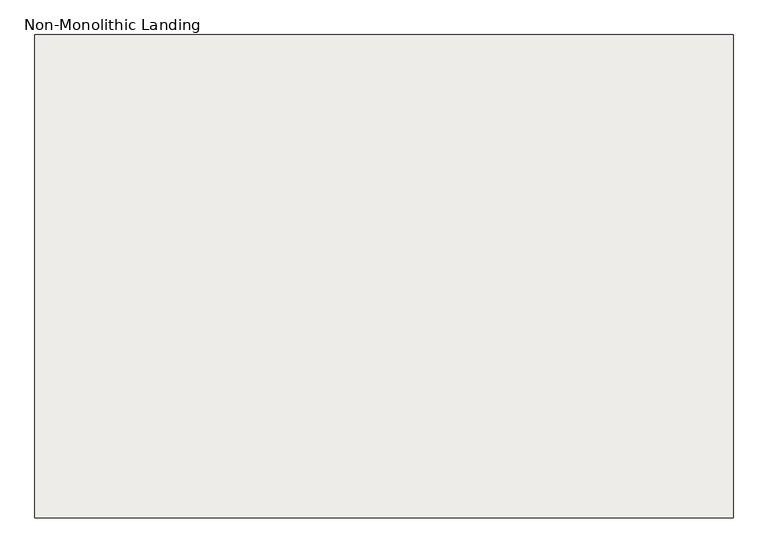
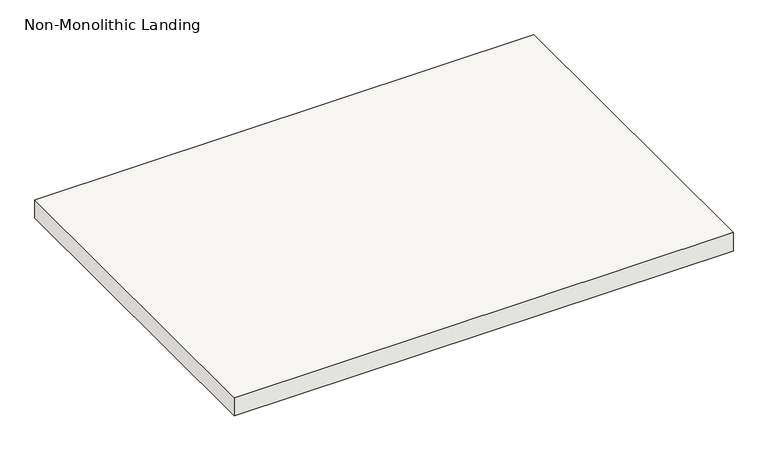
"""IFC4 building model written with IfcOpenShell, lengths in millimetres: slab geometry, Non-Monolithic Landing."""

from ifc_helpers import new_model, si_unit, frame, origin, place, context, project, spatial, polyline, outline, extrude, source, transform, mapped, element, save


def non_monolithic_landing_a06a94af(model_context):
    return source(origin(), model_context, "Body", "SweptSolid", [
        extrude(outline(polyline([(162982.2620703, -1515.4986114), (164303.0620703, -1515.4986114), (164303.0620703, -2429.8986114), (162982.2620703, -2429.8986114), (162982.2620703, -1515.4986114)])), frame((0.0, 0.0, 2126.3428571), z_axis=(0.0, 0.0, 1.0), x_axis=(1.0, 0.0, 0.0)), (0.0, 0.0, 1.0), 50.8),
    ])


if __name__ == "__main__":
    model = new_model("IFC4")
    model_context = context("Model", 3, world=origin())
    ifc_project = project(units=[si_unit("LENGTHUNIT", "METRE", prefix="MILLI")], contexts=[model_context])
    site = spatial("IfcSite", under=ifc_project)
    building = spatial("IfcBuilding", under=site)
    placement = place(None, origin())
    non_monolithic_landing_shape = non_monolithic_landing_a06a94af(model_context)
    element("IfcSlab", 1, ObjectType="Non-Monolithic Landing", at=placement, inside=building, context=model_context, shape_type="MappedRepresentation", body=[
        mapped(non_monolithic_landing_shape, transform((0.0, 0.0, 0.0), x_axis=(1.0, 0.0, 0.0), y_axis=(0.0, 1.0, 0.0), z_axis=(0.0, 0.0, 1.0))),
    ])
    save(model, "model.ifc")
